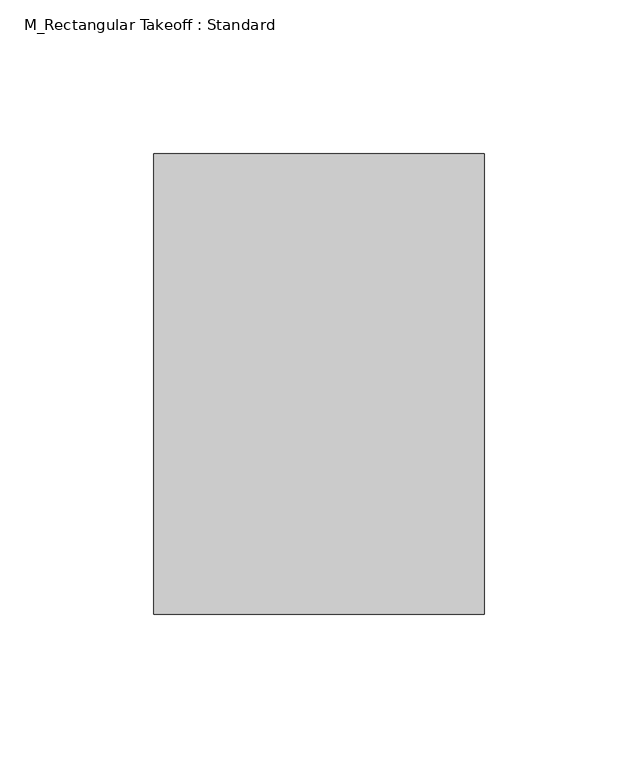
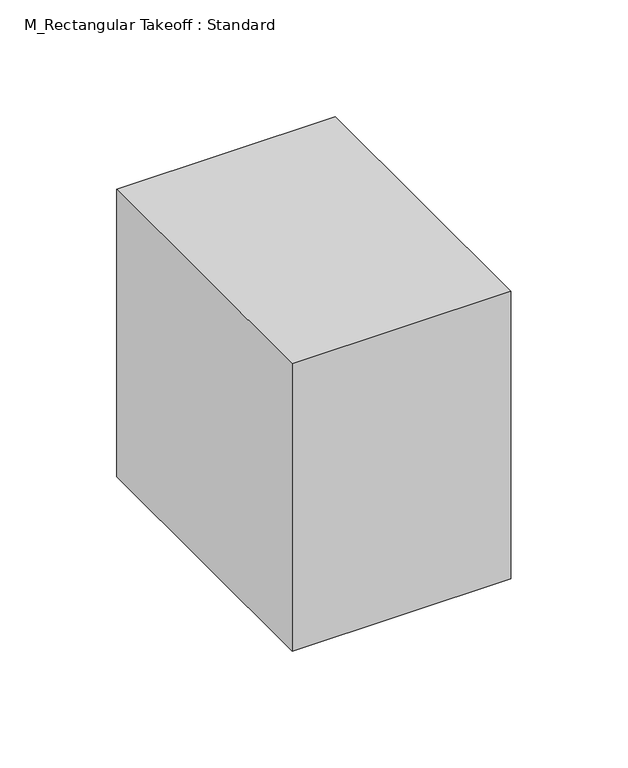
"""IFC4 building model written with IfcOpenShell, lengths in millimetres: duct fitting geometry, M_Rectangular Takeoff : Standard."""

from ifc_helpers import new_model, si_unit, frame, origin, place, context, project, spatial, polyline, outline, extrude, source, transform, mapped, element, save


def m_rectangular_takeoff_standard_4b23f397(model_context):
    return source(origin(), model_context, "Body", "SweptSolid", [
        extrude(outline(polyline([(-6.096, -75.0), (-6.096, 75.0), (101.6, 75.0), (101.6, -75.0), (-6.096, -75.0)])), frame((0.0, 0.0, -75.0), z_axis=(0.0, 0.0, 1.0), x_axis=(1.0, 0.0, 0.0)), (0.0, 0.0, 1.0), 150.0),
    ])


if __name__ == "__main__":
    model = new_model("IFC4")
    model_context = context("Model", 3, world=origin())
    ifc_project = project(units=[si_unit("LENGTHUNIT", "METRE", prefix="MILLI")], contexts=[model_context])
    site = spatial("IfcSite", under=ifc_project)
    building = spatial("IfcBuilding", under=site)
    placement = place(None, origin())
    m_rectangular_takeoff_standard_shape = m_rectangular_takeoff_standard_4b23f397(model_context)
    element("IfcDuctFitting", 1, ObjectType="M_Rectangular Takeoff : Standard", at=placement, inside=building, context=model_context, shape_type="MappedRepresentation", body=[
        mapped(m_rectangular_takeoff_standard_shape, transform((0.0, 0.0, 0.0), x_axis=(1.0, 0.0, 0.0), y_axis=(0.0, 1.0, 0.0), z_axis=(0.0, 0.0, 1.0))),
    ])
    save(model, "model.ifc")
